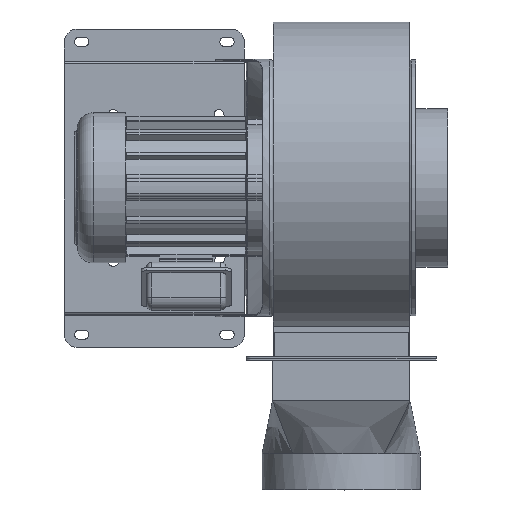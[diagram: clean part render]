
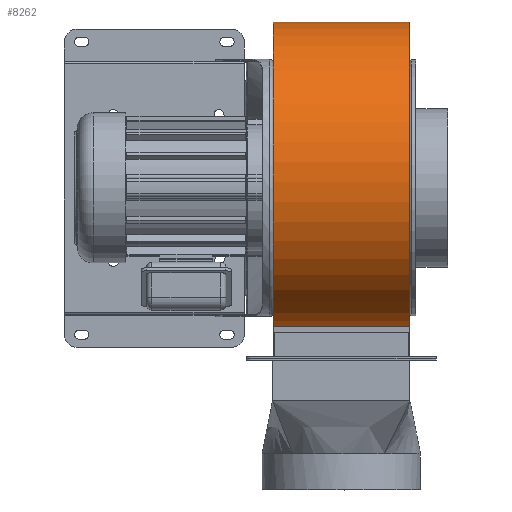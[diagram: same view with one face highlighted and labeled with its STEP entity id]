
A CAD part, top view. The second image highlights one B-rep face of the part: STEP entity #8262.
In plain terms, the highlighted free-form (B-spline) face has degree [3, 1] with [28, 2] control points.
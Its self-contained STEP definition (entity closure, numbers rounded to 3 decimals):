
#86=B_SPLINE_CURVE_WITH_KNOTS('',3,(#12584,#12585,#12586,#12587,#12588,
#12589,#12590,#12591,#12592,#12593,#12594,#12595,#12596,#12597),
 .UNSPECIFIED.,.F.,.F.,(4,1,1,1,1,1,1,1,1,1,1,4),(0.,0.049,
0.133,0.226,0.332,0.422,
0.512,0.592,0.711,0.808,
0.904,1.),.UNSPECIFIED.);
#87=B_SPLINE_CURVE_WITH_KNOTS('',3,(#12598,#12599,#12600,#12601,#12602,
#12603,#12604,#12605,#12606,#12607,#12608,#12609,#12610,#12611),
 .UNSPECIFIED.,.F.,.F.,(4,1,1,1,1,1,1,1,1,1,1,4),(0.,0.049,
0.133,0.226,0.332,0.422,
0.512,0.592,0.711,0.808,
0.904,1.),.UNSPECIFIED.);
#114=B_SPLINE_SURFACE_WITH_KNOTS('',3,1,((#12528,#12529),(#12530,#12531),
(#12532,#12533),(#12534,#12535),(#12536,#12537),(#12538,#12539),(#12540,
#12541),(#12542,#12543),(#12544,#12545),(#12546,#12547),(#12548,#12549),
(#12550,#12551),(#12552,#12553),(#12554,#12555),(#12556,#12557),(#12558,
#12559),(#12560,#12561),(#12562,#12563),(#12564,#12565),(#12566,#12567),
(#12568,#12569),(#12570,#12571),(#12572,#12573),(#12574,#12575),(#12576,
#12577),(#12578,#12579),(#12580,#12581),(#12582,#12583)),
 .SURF_OF_LINEAR_EXTRUSION.,.F.,.F.,.F.,(4,1,1,1,1,1,1,1,1,1,1,1,1,1,1,
1,1,1,1,1,1,1,1,1,1,4),(2,2),(0.,0.063,0.125,0.188,0.219,0.25,0.281,
0.313,0.344,0.375,0.438,0.5,0.531,0.563,0.594,0.625,0.688,0.719,
0.75,0.813,0.844,0.875,0.906,0.938,0.969,1.),(0.,1.),
 .UNSPECIFIED.);
#353=LINE('',#12469,#1024);
#359=LINE('',#12482,#1030);
#1024=VECTOR('',#9819,1000.);
#1030=VECTOR('',#9827,1000.);
#1730=ORIENTED_EDGE('',*,*,#4152,.F.);
#1731=ORIENTED_EDGE('',*,*,#4133,.F.);
#1732=ORIENTED_EDGE('',*,*,#4153,.T.);
#1733=ORIENTED_EDGE('',*,*,#4127,.T.);
#4127=EDGE_CURVE('',#5339,#5337,#353,.T.);
#4133=EDGE_CURVE('',#5344,#5342,#359,.T.);
#4152=EDGE_CURVE('',#5342,#5337,#86,.T.);
#4153=EDGE_CURVE('',#5344,#5339,#87,.T.);
#5337=VERTEX_POINT('',#12467);
#5339=VERTEX_POINT('',#12470);
#5342=VERTEX_POINT('',#12477);
#5344=VERTEX_POINT('',#12481);
#6684=EDGE_LOOP('',(#1730,#1731,#1732,#1733));
#7372=FACE_BOUND('',#6684,.T.);
#8262=ADVANCED_FACE('',(#7372),#114,.T.);
#9819=DIRECTION('',(0.,1.,0.));
#9827=DIRECTION('',(0.,1.,0.));
#12467=CARTESIAN_POINT('',(0.,64.5,175.));
#12469=CARTESIAN_POINT('',(0.,-64.5,175.));
#12470=CARTESIAN_POINT('',(0.,-64.5,175.));
#12477=CARTESIAN_POINT('',(131.206,64.5,-25.));
#12481=CARTESIAN_POINT('',(131.206,-64.5,-25.));
#12482=CARTESIAN_POINT('',(131.206,-64.5,-25.));
#12528=CARTESIAN_POINT('',(131.206,-64.5,-25.));
#12529=CARTESIAN_POINT('',(131.206,64.5,-25.));
#12530=CARTESIAN_POINT('',(128.235,-64.5,-38.725));
#12531=CARTESIAN_POINT('',(128.235,64.5,-38.725));
#12532=CARTESIAN_POINT('',(117.922,-64.5,-65.416));
#12533=CARTESIAN_POINT('',(117.922,64.5,-65.416));
#12534=CARTESIAN_POINT('',(91.799,-64.5,-99.513));
#12535=CARTESIAN_POINT('',(91.799,64.5,-99.513));
#12536=CARTESIAN_POINT('',(62.706,-64.5,-120.419));
#12537=CARTESIAN_POINT('',(62.706,64.5,-120.419));
#12538=CARTESIAN_POINT('',(36.543,-64.5,-131.639));
#12539=CARTESIAN_POINT('',(36.543,64.5,-131.639));
#12540=CARTESIAN_POINT('',(15.866,-64.5,-137.062));
#12541=CARTESIAN_POINT('',(15.866,64.5,-137.062));
#12542=CARTESIAN_POINT('',(-5.407,-64.5,-139.425));
#12543=CARTESIAN_POINT('',(-5.407,64.5,-139.425));
#12544=CARTESIAN_POINT('',(-26.792,-64.5,-138.722));
#12545=CARTESIAN_POINT('',(-26.792,64.5,-138.722));
#12546=CARTESIAN_POINT('',(-47.804,-64.5,-134.912));
#12547=CARTESIAN_POINT('',(-47.804,64.5,-134.912));
#12548=CARTESIAN_POINT('',(-74.728,-64.5,-125.77));
#12549=CARTESIAN_POINT('',(-74.728,64.5,-125.77));
#12550=CARTESIAN_POINT('',(-105.342,-64.5,-107.183));
#12551=CARTESIAN_POINT('',(-105.342,64.5,-107.183));
#12552=CARTESIAN_POINT('',(-129.373,-64.5,-80.532));
#12553=CARTESIAN_POINT('',(-129.373,64.5,-80.532));
#12554=CARTESIAN_POINT('',(-143.285,-64.5,-55.817));
#12555=CARTESIAN_POINT('',(-143.285,64.5,-55.817));
#12556=CARTESIAN_POINT('',(-150.899,-64.5,-35.956));
#12557=CARTESIAN_POINT('',(-150.899,64.5,-35.956));
#12558=CARTESIAN_POINT('',(-155.672,-64.5,-15.183));
#12559=CARTESIAN_POINT('',(-155.672,64.5,-15.183));
#12560=CARTESIAN_POINT('',(-158.179,-64.5,13.189));
#12561=CARTESIAN_POINT('',(-158.179,64.5,13.189));
#12562=CARTESIAN_POINT('',(-155.074,-64.5,41.775));
#12563=CARTESIAN_POINT('',(-155.074,64.5,41.775));
#12564=CARTESIAN_POINT('',(-146.669,-64.5,68.949));
#12565=CARTESIAN_POINT('',(-146.669,64.5,68.949));
#12566=CARTESIAN_POINT('',(-134.863,-64.5,94.698));
#12567=CARTESIAN_POINT('',(-134.863,64.5,94.698));
#12568=CARTESIAN_POINT('',(-118.302,-64.5,117.95));
#12569=CARTESIAN_POINT('',(-118.302,64.5,117.95));
#12570=CARTESIAN_POINT('',(-97.667,-64.5,137.811));
#12571=CARTESIAN_POINT('',(-97.667,64.5,137.811));
#12572=CARTESIAN_POINT('',(-80.439,-64.5,150.459));
#12573=CARTESIAN_POINT('',(-80.439,64.5,150.459));
#12574=CARTESIAN_POINT('',(-61.728,-64.5,160.318));
#12575=CARTESIAN_POINT('',(-61.728,64.5,160.318));
#12576=CARTESIAN_POINT('',(-41.816,-64.5,166.958));
#12577=CARTESIAN_POINT('',(-41.816,64.5,166.958));
#12578=CARTESIAN_POINT('',(-21.108,-64.5,171.508));
#12579=CARTESIAN_POINT('',(-21.108,64.5,171.508));
#12580=CARTESIAN_POINT('',(-7.036,-64.5,173.836));
#12581=CARTESIAN_POINT('',(-7.036,64.5,173.836));
#12582=CARTESIAN_POINT('',(0.,-64.5,175.));
#12583=CARTESIAN_POINT('',(0.,64.5,175.));
#12584=CARTESIAN_POINT('',(131.206,64.5,-25.));
#12585=CARTESIAN_POINT('',(128.881,64.5,-35.739));
#12586=CARTESIAN_POINT('',(118.878,64.5,-64.428));
#12587=CARTESIAN_POINT('',(87.573,64.5,-106.31));
#12588=CARTESIAN_POINT('',(30.324,64.5,-138.639));
#12589=CARTESIAN_POINT('',(-37.349,64.5,-141.948));
#12590=CARTESIAN_POINT('',(-98.005,64.5,-115.649));
#12591=CARTESIAN_POINT('',(-138.994,64.5,-71.094));
#12592=CARTESIAN_POINT('',(-161.131,64.5,-8.479));
#12593=CARTESIAN_POINT('',(-154.751,64.5,61.022));
#12594=CARTESIAN_POINT('',(-118.461,64.5,122.607));
#12595=CARTESIAN_POINT('',(-64.977,64.5,164.248));
#12596=CARTESIAN_POINT('',(-21.714,64.5,171.407));
#12597=CARTESIAN_POINT('',(0.,64.5,175.));
#12598=CARTESIAN_POINT('',(131.206,-64.5,-25.));
#12599=CARTESIAN_POINT('',(128.881,-64.5,-35.739));
#12600=CARTESIAN_POINT('',(118.878,-64.5,-64.428));
#12601=CARTESIAN_POINT('',(87.573,-64.5,-106.31));
#12602=CARTESIAN_POINT('',(30.324,-64.5,-138.639));
#12603=CARTESIAN_POINT('',(-37.349,-64.5,-141.948));
#12604=CARTESIAN_POINT('',(-98.005,-64.5,-115.649));
#12605=CARTESIAN_POINT('',(-138.994,-64.5,-71.094));
#12606=CARTESIAN_POINT('',(-161.131,-64.5,-8.479));
#12607=CARTESIAN_POINT('',(-154.751,-64.5,61.022));
#12608=CARTESIAN_POINT('',(-118.461,-64.5,122.607));
#12609=CARTESIAN_POINT('',(-64.977,-64.5,164.248));
#12610=CARTESIAN_POINT('',(-21.714,-64.5,171.407));
#12611=CARTESIAN_POINT('',(0.,-64.5,175.));
